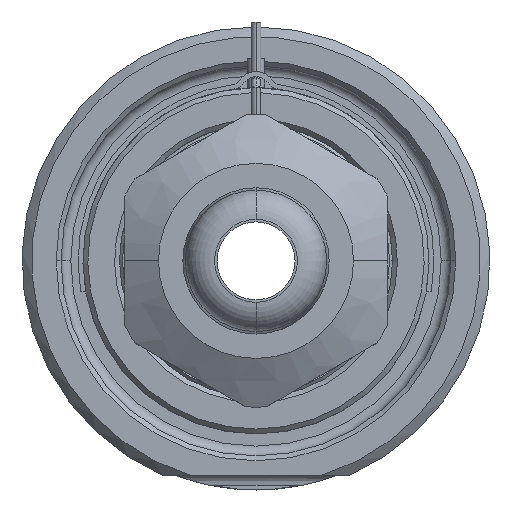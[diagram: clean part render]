
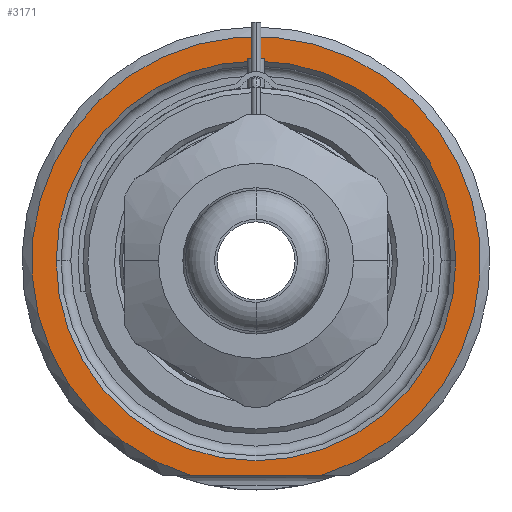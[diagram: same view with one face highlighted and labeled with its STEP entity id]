
A CAD part, front view. The second image highlights one B-rep face of the part: STEP entity #3171.
In plain terms, the highlighted planar face has unit normal (0, -1, 0).
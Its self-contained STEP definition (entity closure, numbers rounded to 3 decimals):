
#1=DIRECTION('',(1.,0.,0.));
#2=VECTOR('',#1,13.416);
#3=CARTESIAN_POINT('',(-6.708,0.,-22.));
#4=LINE('',#3,#2);
#5=CARTESIAN_POINT('',(0.,0.,0.));
#6=DIRECTION('',(0.,1.,0.));
#7=DIRECTION('',(-1.,0.,0.));
#8=AXIS2_PLACEMENT_3D('',#5,#6,#7);
#10=CARTESIAN_POINT('',(0.,0.,0.));
#11=DIRECTION('',(0.,1.,0.));
#12=DIRECTION('',(1.,0.,0.));
#13=AXIS2_PLACEMENT_3D('',#10,#11,#12);
#121=CARTESIAN_POINT('',(0.,0.,0.));
#122=DIRECTION('',(0.,-1.,0.));
#123=DIRECTION('',(0.292,0.,-0.957));
#124=AXIS2_PLACEMENT_3D('',#121,#122,#123);
#2642=CARTESIAN_POINT('',(-20.5,0.,0.));
#2643=CARTESIAN_POINT('',(20.5,0.,0.));
#2644=VERTEX_POINT('',#2642);
#2645=VERTEX_POINT('',#2643);
#2682=CARTESIAN_POINT('',(-6.708,0.,-22.));
#2683=CARTESIAN_POINT('',(6.708,0.,-22.));
#2684=VERTEX_POINT('',#2682);
#2685=VERTEX_POINT('',#2683);
#3154=CARTESIAN_POINT('',(0.,0.,0.));
#3155=DIRECTION('',(0.,-1.,0.));
#3156=DIRECTION('',(1.,0.,0.));
#3157=AXIS2_PLACEMENT_3D('',#3154,#3155,#3156);
#3158=PLANE('',#3157);
#3160=ORIENTED_EDGE('',*,*,#3159,.F.);
#3162=ORIENTED_EDGE('',*,*,#3161,.F.);
#3163=EDGE_LOOP('',(#3160,#3162));
#3164=FACE_OUTER_BOUND('',#3163,.F.);
#3166=ORIENTED_EDGE('',*,*,#3165,.F.);
#3168=ORIENTED_EDGE('',*,*,#3167,.F.);
#3169=EDGE_LOOP('',(#3166,#3168));
#3170=FACE_BOUND('',#3169,.F.);
#3171=ADVANCED_FACE('',(#3164,#3170),#3158,.T.);
#9=CIRCLE('',#8,20.5);
#14=CIRCLE('',#13,20.5);
#125=CIRCLE('',#124,23.);
#3159=EDGE_CURVE('',#2684,#2685,#4,.T.);
#3161=EDGE_CURVE('',#2685,#2684,#125,.T.);
#3165=EDGE_CURVE('',#2644,#2645,#9,.T.);
#3167=EDGE_CURVE('',#2645,#2644,#14,.T.);
